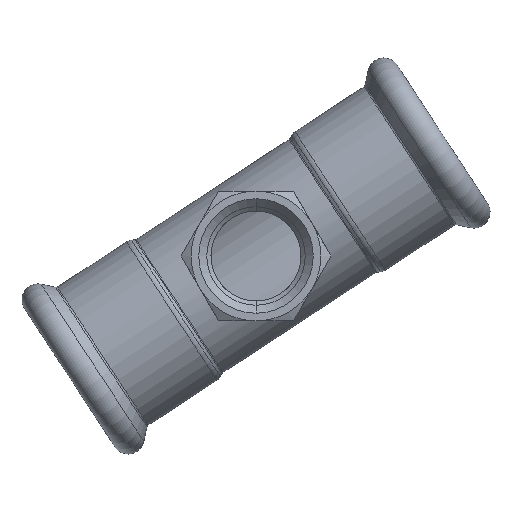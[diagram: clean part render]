
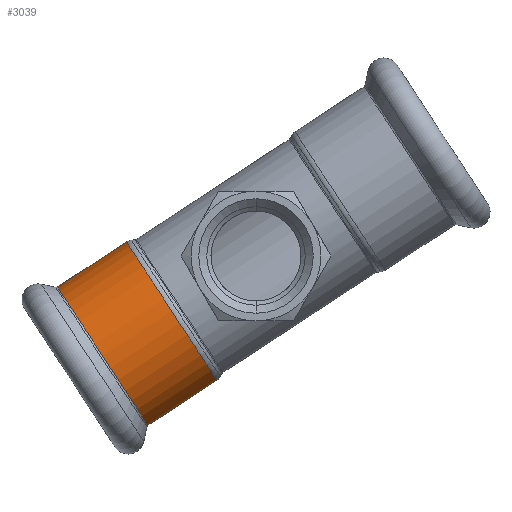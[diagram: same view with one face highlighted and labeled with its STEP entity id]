
A CAD part, front view. The second image highlights one B-rep face of the part: STEP entity #3039.
In plain terms, the highlighted cylindrical face has radius 15.6 mm (diameter 31.2 mm), a partial arc.
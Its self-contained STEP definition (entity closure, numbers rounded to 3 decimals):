
#121 = CARTESIAN_POINT ( 'NONE',  ( 34.55, 0., 15.6 ) ) ;
#140 = EDGE_CURVE ( 'NONE', #2361, #242, #1361, .T. ) ;
#168 = DIRECTION ( 'NONE',  ( -1., 0., 0. ) ) ;
#242 = VERTEX_POINT ( 'NONE', #3181 ) ;
#367 = DIRECTION ( 'NONE',  ( -1., 0., 0. ) ) ;
#543 = EDGE_CURVE ( 'NONE', #1207, #545, #3879, .T. ) ;
#545 = VERTEX_POINT ( 'NONE', #2543 ) ;
#752 = EDGE_CURVE ( 'NONE', #1207, #2361, #4039, .T. ) ;
#1149 = FACE_OUTER_BOUND ( 'NONE', #2817, .T. ) ;
#1207 = VERTEX_POINT ( 'NONE', #121 ) ;
#1217 = EDGE_CURVE ( 'NONE', #545, #242, #2563, .T. ) ;
#1248 = CARTESIAN_POINT ( 'NONE',  ( 19., 0., 15.6 ) ) ;
#1259 = CYLINDRICAL_SURFACE ( 'NONE', #3394, 15.6 ) ;
#1301 = AXIS2_PLACEMENT_3D ( 'NONE', #1518, #3761, #1843 ) ;
#1341 = CARTESIAN_POINT ( 'NONE',  ( 27.146, 0., 15.6 ) ) ;
#1361 = CIRCLE ( 'NONE', #1301, 15.6 ) ;
#1385 = DIRECTION ( 'NONE',  ( -1., 0., 0. ) ) ;
#1518 = CARTESIAN_POINT ( 'NONE',  ( 19., 0., 0. ) ) ;
#1769 = CARTESIAN_POINT ( 'NONE',  ( 27.146, 0., 0. ) ) ;
#1843 = DIRECTION ( 'NONE',  ( 0., 0., 1. ) ) ;
#1994 = CARTESIAN_POINT ( 'NONE',  ( 27.146, 0., -15.6 ) ) ;
#2157 = DIRECTION ( 'NONE',  ( -1., 0., 0. ) ) ;
#2227 = VECTOR ( 'NONE', #1385, 1000. ) ;
#2361 = VERTEX_POINT ( 'NONE', #1248 ) ;
#2404 = ORIENTED_EDGE ( 'NONE', *, *, #1217, .T. ) ;
#2543 = CARTESIAN_POINT ( 'NONE',  ( 34.55, 0., -15.6 ) ) ;
#2563 = LINE ( 'NONE', #1994, #2227 ) ;
#2734 = DIRECTION ( 'NONE',  ( 0., 0., 1. ) ) ;
#2760 = VECTOR ( 'NONE', #367, 1000. ) ;
#2768 = DIRECTION ( 'NONE',  ( 0., 0., 1. ) ) ;
#2817 = EDGE_LOOP ( 'NONE', ( #2977, #2404, #3055, #4038 ) ) ;
#2977 = ORIENTED_EDGE ( 'NONE', *, *, #543, .T. ) ;
#3039 = ADVANCED_FACE ( 'NONE', ( #1149 ), #1259, .T. ) ;
#3055 = ORIENTED_EDGE ( 'NONE', *, *, #140, .F. ) ;
#3159 = AXIS2_PLACEMENT_3D ( 'NONE', #3456, #2157, #2768 ) ;
#3181 = CARTESIAN_POINT ( 'NONE',  ( 19., 0., -15.6 ) ) ;
#3394 = AXIS2_PLACEMENT_3D ( 'NONE', #1769, #168, #2734 ) ;
#3456 = CARTESIAN_POINT ( 'NONE',  ( 34.55, 0., 0. ) ) ;
#3761 = DIRECTION ( 'NONE',  ( -1., 0., 0. ) ) ;
#3879 = CIRCLE ( 'NONE', #3159, 15.6 ) ;
#4038 = ORIENTED_EDGE ( 'NONE', *, *, #752, .F. ) ;
#4039 = LINE ( 'NONE', #1341, #2760 ) ;
